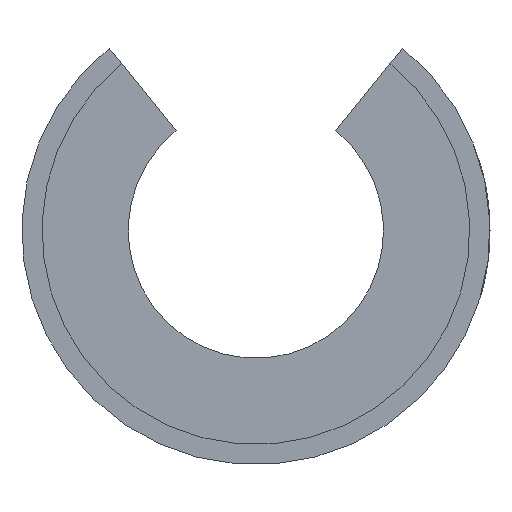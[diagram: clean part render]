
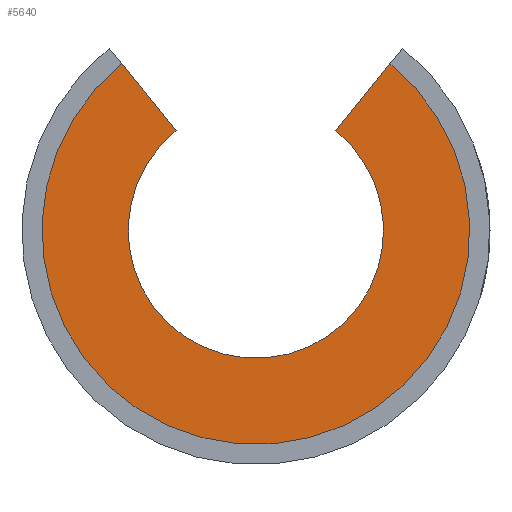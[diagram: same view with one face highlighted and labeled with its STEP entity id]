
A CAD part, left-side view. The second image highlights one B-rep face of the part: STEP entity #5640.
In plain terms, the highlighted planar face has unit normal (-1, 0, 0).
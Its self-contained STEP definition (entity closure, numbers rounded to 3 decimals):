
#122=PLANE('',#6082);
#379=CIRCLE('',#6058,6.);
#391=CIRCLE('',#6083,10.053);
#596=LINE('',#8853,#1085);
#597=LINE('',#8857,#1086);
#1085=VECTOR('',#6730,1000.);
#1086=VECTOR('',#6733,1000.);
#1761=ORIENTED_EDGE('',*,*,#3460,.T.);
#1762=ORIENTED_EDGE('',*,*,#3461,.F.);
#1763=ORIENTED_EDGE('',*,*,#3462,.T.);
#1764=ORIENTED_EDGE('',*,*,#3423,.T.);
#3423=EDGE_CURVE('',#4280,#4279,#379,.F.);
#3460=EDGE_CURVE('',#4279,#4303,#596,.T.);
#3461=EDGE_CURVE('',#4304,#4303,#391,.T.);
#3462=EDGE_CURVE('',#4304,#4280,#597,.T.);
#4279=VERTEX_POINT('',#8779);
#4280=VERTEX_POINT('',#8781);
#4303=VERTEX_POINT('',#8854);
#4304=VERTEX_POINT('',#8856);
#4840=EDGE_LOOP('',(#1761,#1762,#1763,#1764));
#5231=FACE_BOUND('',#4840,.T.);
#5640=ADVANCED_FACE('',(#5231),#122,.T.);
#6058=AXIS2_PLACEMENT_3D('',#8780,#6655,#6656);
#6082=AXIS2_PLACEMENT_3D('',#8852,#6728,#6729);
#6083=AXIS2_PLACEMENT_3D('',#8855,#6731,#6732);
#6655=DIRECTION('',(-1.,0.,0.));
#6656=DIRECTION('',(0.,0.,1.));
#6728=DIRECTION('',(-1.,0.,0.));
#6729=DIRECTION('',(0.,0.,-1.));
#6730=DIRECTION('',(0.,0.629,0.777));
#6731=DIRECTION('',(1.,0.,0.));
#6732=DIRECTION('',(0.,0.,-1.));
#6733=DIRECTION('',(0.,0.629,-0.777));
#8779=CARTESIAN_POINT('',(-15.,3.75,4.684));
#8780=CARTESIAN_POINT('',(-15.,0.,0.));
#8781=CARTESIAN_POINT('',(-15.,-3.75,4.684));
#8852=CARTESIAN_POINT('',(-15.,0.,0.));
#8853=CARTESIAN_POINT('',(-15.,3.75,4.684));
#8854=CARTESIAN_POINT('',(-15.,6.3,7.833));
#8855=CARTESIAN_POINT('',(-15.,0.,0.));
#8856=CARTESIAN_POINT('',(-15.,-6.3,7.833));
#8857=CARTESIAN_POINT('',(-15.,-3.75,4.684));
